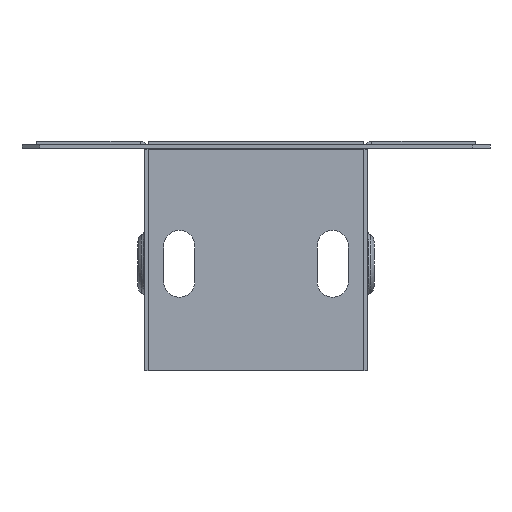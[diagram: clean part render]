
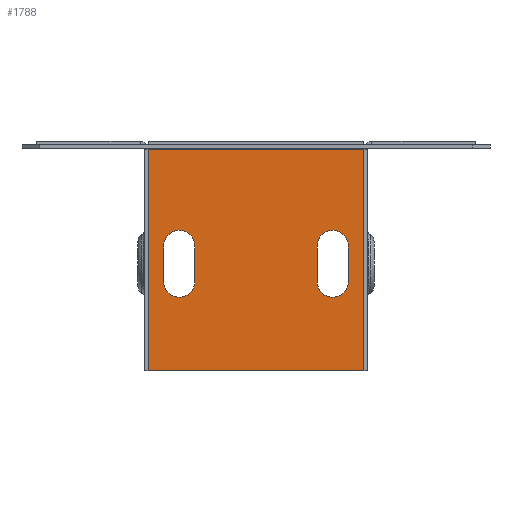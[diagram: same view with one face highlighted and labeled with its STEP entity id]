
A CAD part, left-side view. The second image highlights one B-rep face of the part: STEP entity #1788.
In plain terms, the highlighted planar face has unit normal (-1, 0, 0) as drawn and (0, 1, 0) by its records, which use the part's own axes.
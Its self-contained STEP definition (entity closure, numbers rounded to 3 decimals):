
#37 = CIRCLE ( 'NONE', #5528, 3.5 ) ;
#67 = FACE_BOUND ( 'NONE', #4839, .T. ) ;
#136 = ORIENTED_EDGE ( 'NONE', *, *, #4914, .F. ) ;
#228 = CIRCLE ( 'NONE', #2499, 3.5 ) ;
#484 = CARTESIAN_POINT ( 'NONE',  ( -17.2, 0.8, 31.5 ) ) ;
#486 = VERTEX_POINT ( 'NONE', #4604 ) ;
#507 = CIRCLE ( 'NONE', #3931, 3.5 ) ;
#754 = VERTEX_POINT ( 'NONE', #6073 ) ;
#881 = CARTESIAN_POINT ( 'NONE',  ( -13.7, 0.8, 31.5 ) ) ;
#904 = VECTOR ( 'NONE', #2342, 1000. ) ;
#990 = DIRECTION ( 'NONE',  ( 0., 0., 1. ) ) ;
#1008 = CARTESIAN_POINT ( 'NONE',  ( -24.2, 0.8, 51.5 ) ) ;
#1022 = CARTESIAN_POINT ( 'NONE',  ( 17.2, 0.8, 23.5 ) ) ;
#1113 = EDGE_CURVE ( 'NONE', #3736, #1896, #3031, .T. ) ;
#1133 = EDGE_CURVE ( 'NONE', #6275, #2150, #4178, .T. ) ;
#1165 = EDGE_CURVE ( 'NONE', #2150, #1795, #228, .T. ) ;
#1390 = VECTOR ( 'NONE', #1926, 1000. ) ;
#1482 = DIRECTION ( 'NONE',  ( 0., 0., 1. ) ) ;
#1495 = CARTESIAN_POINT ( 'NONE',  ( 24.2, 0.8, 51.5 ) ) ;
#1524 = DIRECTION ( 'NONE',  ( 0., -1., 0. ) ) ;
#1526 = CARTESIAN_POINT ( 'NONE',  ( 13.7, 0.8, 23.5 ) ) ;
#1559 = ORIENTED_EDGE ( 'NONE', *, *, #3928, .F. ) ;
#1581 = CARTESIAN_POINT ( 'NONE',  ( -17.2, 0.8, 31.5 ) ) ;
#1726 = EDGE_CURVE ( 'NONE', #754, #2599, #3022, .T. ) ;
#1761 = CARTESIAN_POINT ( 'NONE',  ( 24.2, 0.8, 0. ) ) ;
#1784 = CARTESIAN_POINT ( 'NONE',  ( -20.7, 0.8, 31.5 ) ) ;
#1788 = ADVANCED_FACE ( 'NONE', ( #3869, #5290, #67 ), #2086, .F. ) ;
#1795 = VERTEX_POINT ( 'NONE', #6228 ) ;
#1800 = ORIENTED_EDGE ( 'NONE', *, *, #3816, .T. ) ;
#1855 = LINE ( 'NONE', #1761, #4292 ) ;
#1858 = AXIS2_PLACEMENT_3D ( 'NONE', #4216, #4319, #4434 ) ;
#1879 = DIRECTION ( 'NONE',  ( 0., 1., 0. ) ) ;
#1896 = VERTEX_POINT ( 'NONE', #2251 ) ;
#1919 = VERTEX_POINT ( 'NONE', #4626 ) ;
#1926 = DIRECTION ( 'NONE',  ( 0., 0., -1. ) ) ;
#1956 = VECTOR ( 'NONE', #4148, 1000. ) ;
#2014 = DIRECTION ( 'NONE',  ( -1., 0., 0. ) ) ;
#2086 = PLANE ( 'NONE',  #6210 ) ;
#2131 = DIRECTION ( 'NONE',  ( 0., -1., 0. ) ) ;
#2150 = VERTEX_POINT ( 'NONE', #5851 ) ;
#2226 = CARTESIAN_POINT ( 'NONE',  ( 24.2, 0.8, 0. ) ) ;
#2233 = LINE ( 'NONE', #4745, #904 ) ;
#2251 = CARTESIAN_POINT ( 'NONE',  ( 20.7, 0.8, 31.5 ) ) ;
#2254 = DIRECTION ( 'NONE',  ( 0., 0., 1. ) ) ;
#2273 = EDGE_CURVE ( 'NONE', #1896, #754, #5278, .T. ) ;
#2324 = AXIS2_PLACEMENT_3D ( 'NONE', #1581, #1524, #1482 ) ;
#2342 = DIRECTION ( 'NONE',  ( 0., 0., 1. ) ) ;
#2397 = LINE ( 'NONE', #881, #3678 ) ;
#2456 = DIRECTION ( 'NONE',  ( 0., 0., -1. ) ) ;
#2499 = AXIS2_PLACEMENT_3D ( 'NONE', #5809, #5842, #5866 ) ;
#2558 = ORIENTED_EDGE ( 'NONE', *, *, #1113, .F. ) ;
#2599 = VERTEX_POINT ( 'NONE', #1526 ) ;
#2615 = CARTESIAN_POINT ( 'NONE',  ( 24.2, 0.8, 1.8 ) ) ;
#2779 = VERTEX_POINT ( 'NONE', #1008 ) ;
#2877 = CARTESIAN_POINT ( 'NONE',  ( -13.7, 0.8, 31.5 ) ) ;
#2880 = VERTEX_POINT ( 'NONE', #4709 ) ;
#2920 = EDGE_CURVE ( 'NONE', #2599, #1919, #5770, .T. ) ;
#2981 = LINE ( 'NONE', #1495, #5401 ) ;
#3022 = CIRCLE ( 'NONE', #4341, 3.5 ) ;
#3031 = CIRCLE ( 'NONE', #1858, 3.5 ) ;
#3625 = VERTEX_POINT ( 'NONE', #2877 ) ;
#3678 = VECTOR ( 'NONE', #4811, 1000. ) ;
#3736 = VERTEX_POINT ( 'NONE', #4373 ) ;
#3757 = LINE ( 'NONE', #2615, #5041 ) ;
#3816 = EDGE_CURVE ( 'NONE', #6102, #6275, #4453, .T. ) ;
#3855 = ORIENTED_EDGE ( 'NONE', *, *, #4554, .T. ) ;
#3869 = FACE_OUTER_BOUND ( 'NONE', #6003, .T. ) ;
#3928 = EDGE_CURVE ( 'NONE', #1919, #3736, #37, .T. ) ;
#3931 = AXIS2_PLACEMENT_3D ( 'NONE', #484, #3932, #990 ) ;
#3932 = DIRECTION ( 'NONE',  ( 0., -1., 0. ) ) ;
#3998 = DIRECTION ( 'NONE',  ( 0., 0., 1. ) ) ;
#4061 = CARTESIAN_POINT ( 'NONE',  ( -17.2, 0.8, 35. ) ) ;
#4087 = EDGE_LOOP ( 'NONE', ( #5421, #2558, #1559, #4845, #5984 ) ) ;
#4148 = DIRECTION ( 'NONE',  ( 0., 0., 1. ) ) ;
#4178 = LINE ( 'NONE', #4905, #5298 ) ;
#4190 = DIRECTION ( 'NONE',  ( 0., 0., -1. ) ) ;
#4216 = CARTESIAN_POINT ( 'NONE',  ( 17.2, 0.8, 31.5 ) ) ;
#4288 = VERTEX_POINT ( 'NONE', #5492 ) ;
#4292 = VECTOR ( 'NONE', #2254, 1000. ) ;
#4319 = DIRECTION ( 'NONE',  ( 0., 1., 0. ) ) ;
#4341 = AXIS2_PLACEMENT_3D ( 'NONE', #1022, #1879, #3998 ) ;
#4373 = CARTESIAN_POINT ( 'NONE',  ( 17.2, 0.8, 35. ) ) ;
#4434 = DIRECTION ( 'NONE',  ( 0., 0., 1. ) ) ;
#4453 = CIRCLE ( 'NONE', #2324, 3.5 ) ;
#4472 = ORIENTED_EDGE ( 'NONE', *, *, #1133, .T. ) ;
#4539 = ORIENTED_EDGE ( 'NONE', *, *, #1165, .T. ) ;
#4554 = EDGE_CURVE ( 'NONE', #1795, #3625, #2397, .T. ) ;
#4593 = CARTESIAN_POINT ( 'NONE',  ( 13.7, 0.8, 31.5 ) ) ;
#4604 = CARTESIAN_POINT ( 'NONE',  ( 24.2, 0.8, 51.5 ) ) ;
#4626 = CARTESIAN_POINT ( 'NONE',  ( 13.7, 0.8, 31.5 ) ) ;
#4628 = ORIENTED_EDGE ( 'NONE', *, *, #5884, .T. ) ;
#4709 = CARTESIAN_POINT ( 'NONE',  ( 24.2, 0.8, 1.8 ) ) ;
#4745 = CARTESIAN_POINT ( 'NONE',  ( -24.2, 0.8, 0. ) ) ;
#4770 = EDGE_CURVE ( 'NONE', #2880, #4288, #3757, .T. ) ;
#4811 = DIRECTION ( 'NONE',  ( 0., 0., 1. ) ) ;
#4839 = EDGE_LOOP ( 'NONE', ( #4628, #1800, #4472, #4539, #3855 ) ) ;
#4845 = ORIENTED_EDGE ( 'NONE', *, *, #2920, .F. ) ;
#4905 = CARTESIAN_POINT ( 'NONE',  ( -20.7, 0.8, 31.5 ) ) ;
#4914 = EDGE_CURVE ( 'NONE', #2880, #486, #1855, .T. ) ;
#5041 = VECTOR ( 'NONE', #5935, 1000. ) ;
#5106 = EDGE_CURVE ( 'NONE', #4288, #2779, #2233, .T. ) ;
#5278 = LINE ( 'NONE', #5444, #1390 ) ;
#5290 = FACE_BOUND ( 'NONE', #4087, .T. ) ;
#5298 = VECTOR ( 'NONE', #4190, 1000. ) ;
#5401 = VECTOR ( 'NONE', #2014, 1000. ) ;
#5421 = ORIENTED_EDGE ( 'NONE', *, *, #2273, .F. ) ;
#5444 = CARTESIAN_POINT ( 'NONE',  ( 20.7, 0.8, 31.5 ) ) ;
#5492 = CARTESIAN_POINT ( 'NONE',  ( -24.2, 0.8, 1.8 ) ) ;
#5528 = AXIS2_PLACEMENT_3D ( 'NONE', #6163, #6143, #6121 ) ;
#5770 = LINE ( 'NONE', #4593, #1956 ) ;
#5809 = CARTESIAN_POINT ( 'NONE',  ( -17.2, 0.8, 23.5 ) ) ;
#5842 = DIRECTION ( 'NONE',  ( 0., -1., 0. ) ) ;
#5848 = ORIENTED_EDGE ( 'NONE', *, *, #4770, .T. ) ;
#5851 = CARTESIAN_POINT ( 'NONE',  ( -20.7, 0.8, 23.5 ) ) ;
#5866 = DIRECTION ( 'NONE',  ( 0., 0., 1. ) ) ;
#5884 = EDGE_CURVE ( 'NONE', #3625, #6102, #507, .T. ) ;
#5895 = EDGE_CURVE ( 'NONE', #486, #2779, #2981, .T. ) ;
#5903 = ORIENTED_EDGE ( 'NONE', *, *, #5895, .F. ) ;
#5935 = DIRECTION ( 'NONE',  ( -1., 0., 0. ) ) ;
#5984 = ORIENTED_EDGE ( 'NONE', *, *, #1726, .F. ) ;
#6003 = EDGE_LOOP ( 'NONE', ( #6053, #5903, #136, #5848 ) ) ;
#6053 = ORIENTED_EDGE ( 'NONE', *, *, #5106, .T. ) ;
#6073 = CARTESIAN_POINT ( 'NONE',  ( 20.7, 0.8, 23.5 ) ) ;
#6102 = VERTEX_POINT ( 'NONE', #4061 ) ;
#6121 = DIRECTION ( 'NONE',  ( 0., 0., 1. ) ) ;
#6143 = DIRECTION ( 'NONE',  ( 0., 1., 0. ) ) ;
#6163 = CARTESIAN_POINT ( 'NONE',  ( 17.2, 0.8, 31.5 ) ) ;
#6210 = AXIS2_PLACEMENT_3D ( 'NONE', #2226, #2131, #2456 ) ;
#6228 = CARTESIAN_POINT ( 'NONE',  ( -13.7, 0.8, 23.5 ) ) ;
#6275 = VERTEX_POINT ( 'NONE', #1784 ) ;
